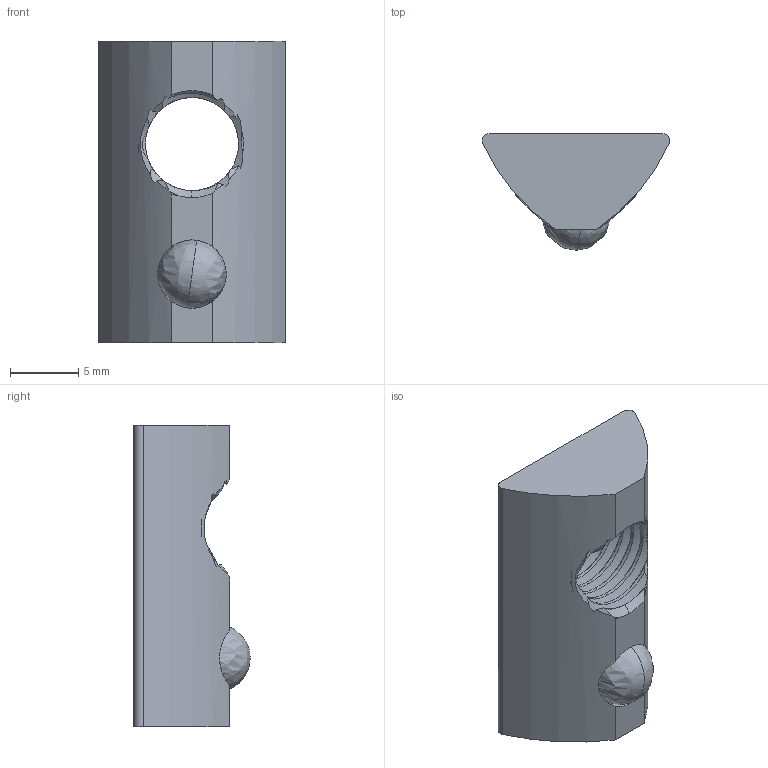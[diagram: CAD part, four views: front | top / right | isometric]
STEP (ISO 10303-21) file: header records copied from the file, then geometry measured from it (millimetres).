
FILE_DESCRIPTION (( 'STEP AP203' ), '1' );
FILE_NAME ('998099_Nutenstein 8 M8 einschwenkbar mit Kugel (ohne Steg).step', '2022-09-16T08:49:31', ( '' ), ( '' ), 'SwSTEP 2.0', 'SolidWorks 2021', '' );
FILE_SCHEMA (( 'CONFIG_CONTROL_DESIGN' ));
Length unit declared in the file: millimetre
Products named in the file (1): 998099_Nutenstein 8 M8 einschwenkbar mit Kugel (ohne Steg)
Bounding box: 13.7 x 8.5 x 22 mm (x, y, z)
Volume: 1163 mm3; surface area: 1191.3 mm2
Topology: 2 solids, 2 shells, 59 faces, 170 edges, 110 vertices
Faces by surface type: bspline 22, cylinder 22, cone 8, plane 7
Entity records: 7703 total; most frequent: CARTESIAN_POINT 6394, ORIENTED_EDGE 332, EDGE_CURVE 166, DIRECTION 165, VERTEX_POINT 110, B_SPLINE_CURVE_WITH_KNOTS 69, AXIS2_PLACEMENT_3D 66, EDGE_LOOP 60
